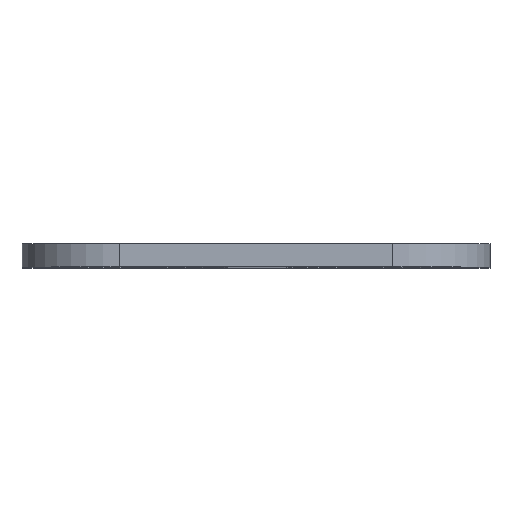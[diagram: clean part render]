
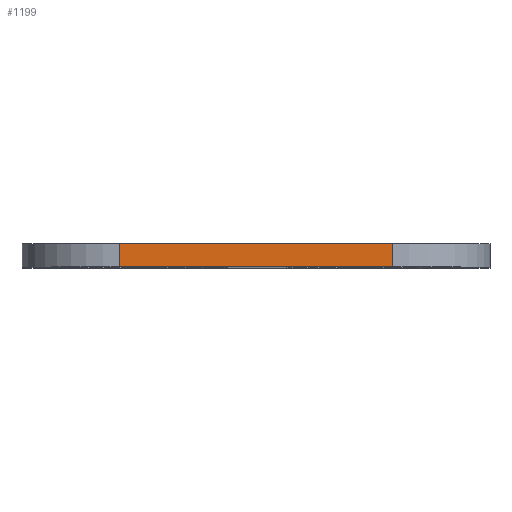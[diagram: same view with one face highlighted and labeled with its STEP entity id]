
A CAD part, top view. The second image highlights one B-rep face of the part: STEP entity #1199.
In plain terms, the highlighted planar face has unit normal (0, 0, 1).
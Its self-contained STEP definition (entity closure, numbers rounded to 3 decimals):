
#42=PLANE('',#1306);
#111=FACE_OUTER_BOUND('',#185,.T.);
#185=EDGE_LOOP('',(#1049,#1050,#1051,#1052));
#358=LINE('',#3878,#410);
#376=LINE('',#6872,#428);
#377=LINE('',#6875,#429);
#378=LINE('',#6876,#430);
#410=VECTOR('',#1438,10.);
#428=VECTOR('',#1538,10.);
#429=VECTOR('',#1541,10.);
#430=VECTOR('',#1542,10.);
#524=VERTEX_POINT('',#3875);
#525=VERTEX_POINT('',#3877);
#550=VERTEX_POINT('',#6870);
#551=VERTEX_POINT('',#6874);
#664=EDGE_CURVE('',#525,#524,#358,.T.);
#727=EDGE_CURVE('',#525,#550,#376,.T.);
#728=EDGE_CURVE('',#551,#524,#377,.T.);
#729=EDGE_CURVE('',#550,#551,#378,.T.);
#1049=ORIENTED_EDGE('',*,*,#727,.F.);
#1050=ORIENTED_EDGE('',*,*,#664,.T.);
#1051=ORIENTED_EDGE('',*,*,#728,.F.);
#1052=ORIENTED_EDGE('',*,*,#729,.F.);
#1199=ADVANCED_FACE('',(#111),#42,.T.);
#1306=AXIS2_PLACEMENT_3D('',#6873,#1539,#1540);
#1438=DIRECTION('',(1.,0.,0.));
#1538=DIRECTION('',(0.,1.,0.));
#1539=DIRECTION('center_axis',(0.,0.,1.));
#1540=DIRECTION('ref_axis',(1.,0.,0.));
#1541=DIRECTION('',(0.,-1.,0.));
#1542=DIRECTION('',(1.,0.,0.));
#3875=CARTESIAN_POINT('',(35.,0.,110.));
#3877=CARTESIAN_POINT('',(-35.,0.,110.));
#3878=CARTESIAN_POINT('',(-60.,0.,110.));
#6870=CARTESIAN_POINT('',(-35.,6.,110.));
#6872=CARTESIAN_POINT('',(-35.,0.,110.));
#6873=CARTESIAN_POINT('Origin',(-60.,0.,110.));
#6874=CARTESIAN_POINT('',(35.,6.,110.));
#6875=CARTESIAN_POINT('',(35.,0.,110.));
#6876=CARTESIAN_POINT('',(-60.,6.,110.));
